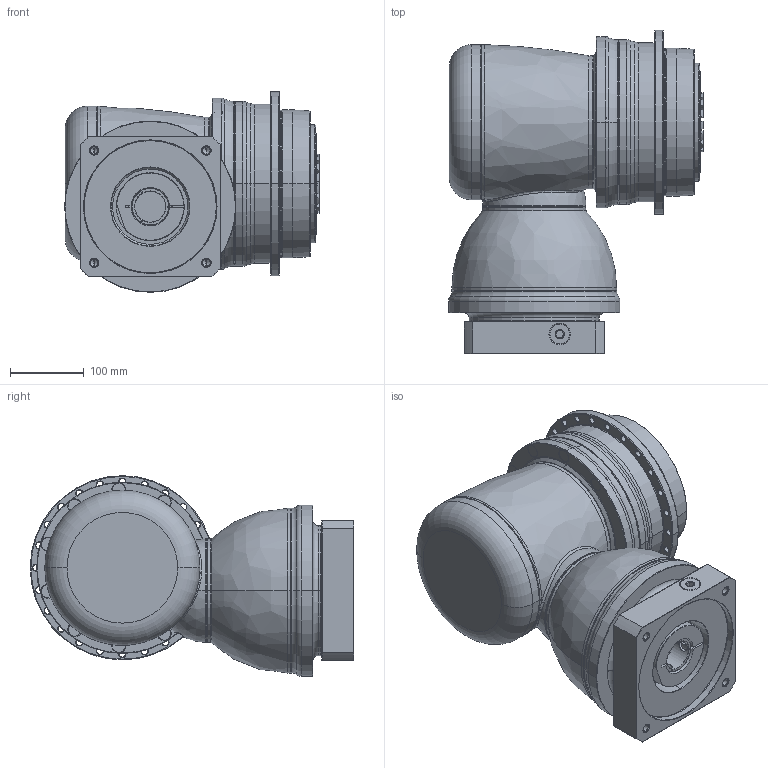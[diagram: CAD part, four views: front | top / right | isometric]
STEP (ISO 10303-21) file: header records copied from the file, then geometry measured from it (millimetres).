
FILE_DESCRIPTION((''),'2;1');
FILE_NAME('APCK200_2ST_42-P0409A00201_ASM','2018-05-09T',('d01226'),(''),'PRO/ENGINEER BY PARAMETRIC TECHNOLOGY CORPORATION, 2008410','PRO/ENGINEER BY PARAMETRIC TECHNOLOGY CORPORATION, 2008410','');
FILE_SCHEMA(('CONFIG_CONTROL_DESIGN'));
Length unit declared in the file: millimetre
Products named in the file (13): P1008600002; P1802610011; P0278601003; P0359660103; P1211600001; P1315600001; P1007601001; P1318610301; P0409A00201; P0503A00012; P0912603001; 21711422019; APCK200_2ST_42-P0409A00201_ASM
Assembly tree (12 placements, depth 2):
  APCK200_2ST_42-P0409A00201_ASM
    P1008600002
    P1802610011
    P0278601003
    P0359660103
    P1211600001
    P1315600001
    P1007601001
    P1318610301
    P0409A00201
    P0503A00012
    P0912603001
    21711422019
Bounding box: 345.1 x 438.25 x 271.75 mm (x, y, z)
Volume: 18359600.8 mm3; surface area: 1193872.7 mm2
Topology: 13 solids, 23 shells, 803 faces, 1877 edges, 1148 vertices
Faces by surface type: cylinder 265, cone 236, plane 153, torus 114, bspline 33, sphere 2
Entity records: 29954 total; most frequent: CARTESIAN_POINT 10943, DIRECTION 4305, ORIENTED_EDGE 3684, AXIS2_PLACEMENT_3D 1884, EDGE_CURVE 1863, VERTEX_POINT 1148, CIRCLE 1079, EDGE_LOOP 929
